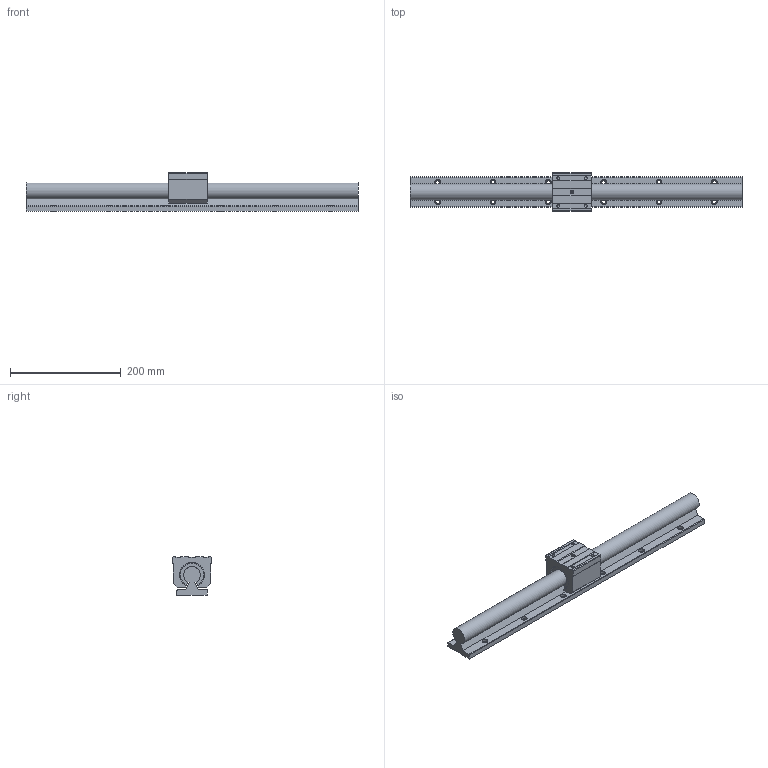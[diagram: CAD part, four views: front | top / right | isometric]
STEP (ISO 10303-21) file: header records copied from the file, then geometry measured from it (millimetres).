
FILE_DESCRIPTION((''),'2;1');
FILE_NAME('D:\製品 (図面)\カタログ用3D\リニアガイド関連\STEP形式\GH(C)\GH(C)30.stp','2010-06-02T15:43:19',('Tsuchiya'),(''),'Autodesk Inventor 10','Autodesk Inventor 10','');
FILE_SCHEMA(('AUTOMOTIVE_DESIGN { 1 0 10303 214 1 1 1 1 }'));
Length unit declared in the file: millimetre
Products named in the file (3): GH(C)30; GH(C)301; GH(C)302
Assembly tree (2 placements, depth 2):
  GH(C)30
    GH(C)301
    GH(C)302
Bounding box: 600 x 70 x 70 mm (x, y, z)
Volume: 1051889.1 mm3; surface area: 167636.2 mm2
Topology: 2 solids, 2 shells, 126 faces, 324 edges, 211 vertices
Faces by surface type: plane 56, bspline 42, cylinder 23, cone 3, torus 2
Full cylindrical faces by diameter (mm): 4.917 x2
Entity records: 4134 total; most frequent: CARTESIAN_POINT 1204, ORIENTED_EDGE 566, DIRECTION 553, EDGE_CURVE 283, VERTEX_POINT 204, EDGE_LOOP 197, AXIS2_PLACEMENT_3D 191, VECTOR 171
